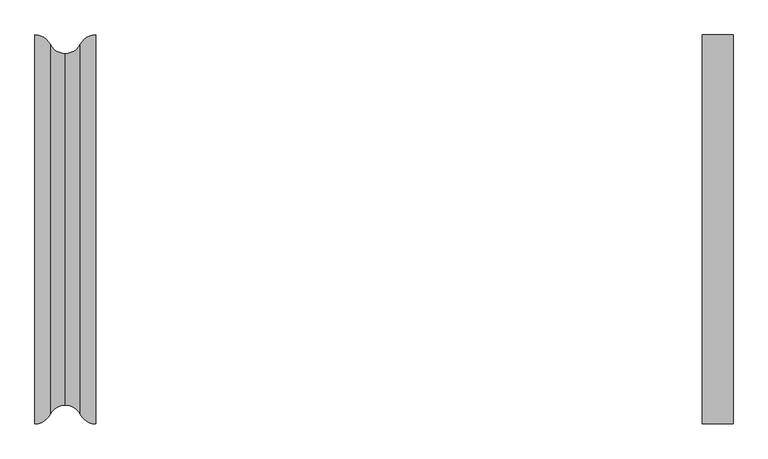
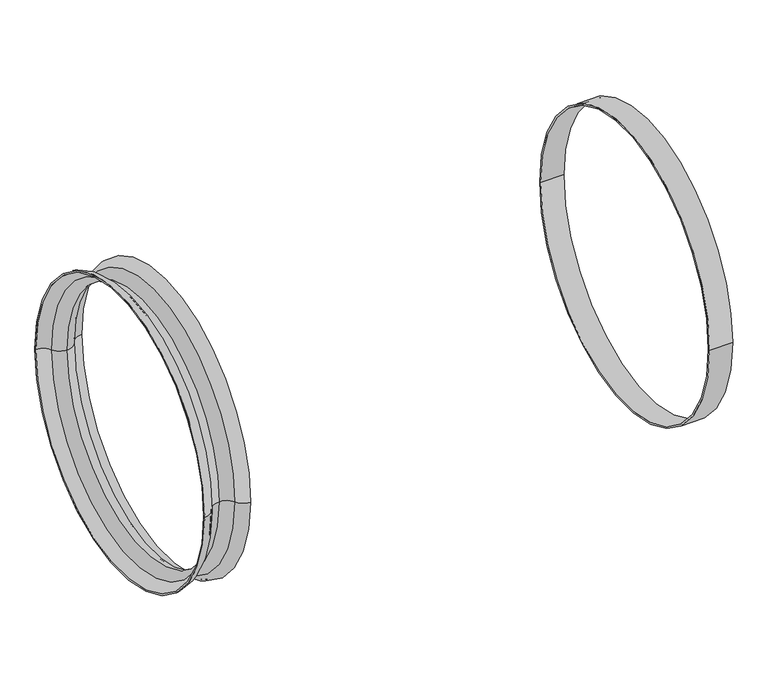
"""IFC4 building model written with IfcOpenShell, lengths in millimetres: pipe fitting geometry, Z_PIF_UN_Q-Bic_Plus_Shaft_Pipe_Wavin_(nested) : PP, RAL8012, ø600mm."""

from ifc_helpers import new_model, si_unit, point, frame, origin, place, context, project, spatial, polyline, circle_curve, ellipse_curve, trimmed, source, transform, mapped, element, save
from ifc_brep_helpers import plane_surface, cylinder_surface, revolved_surface, advanced_brep


def pipe_fitting_fba1ddc1(model_context):
    return source(origin(), model_context, "Body", "AdvancedBrep", [
        advanced_brep(
        [(0.0, -336.4, 0.0), (0.0, 336.4, 0.0), (26.25, 320.3, 0.0), (26.25, -320.3, 0.0), (0.0, -332.7, 0.0), (0.0, 332.7, 0.0), (26.25, -316.6, 0.0), (26.25, 316.6, 0.0), (52.5, -300.5, 0.0), (52.5, 300.5, 0.0), (78.75, -316.6, 0.0), (78.75, 316.6, 0.0), (105.0, -332.7, 0.0), (105.0, 332.7, 0.0), (105.0, -336.4, 0.0), (105.0, 336.4, 0.0), (78.75, -320.3, 0.0), (78.75, 320.3, 0.0), (52.5, -304.2, 0.0), (52.5, 304.2, 0.0)],
        [
            (0, 1, circle_curve(frame((0.0, 0.0, 0.0), z_axis=(1.0, 0.0, 0.0), x_axis=(0.0, 1.0, 0.0)), 336.4)),
            (1, 2, circle_curve(frame((0.0, 306.9505435, 0.0), z_axis=(0.0, 0.0, -1.0), x_axis=(1.0, 0.0, 0.0)), 29.4494565)),
            (2, 3, circle_curve(frame((26.25, 0.0, 0.0), z_axis=(-1.0, 0.0, 0.0), x_axis=(0.0, 1.0, 0.0)), 320.3)),
            (3, 0, circle_curve(frame((0.0, -306.9505435, 0.0), z_axis=(0.0, 0.0, -1.0), x_axis=(1.0, 0.0, 0.0)), 29.4494565)),
            (1, 0, circle_curve(frame((0.0, 0.0, 0.0), z_axis=(1.0, 0.0, 0.0), x_axis=(0.0, 1.0, 0.0)), 336.4)),
            (3, 2, circle_curve(frame((26.25, 0.0, 0.0), z_axis=(-1.0, 0.0, 0.0), x_axis=(0.0, 1.0, 0.0)), 320.3)),
            (4, 5, circle_curve(frame((0.0, 0.0, 0.0), z_axis=(1.0, 0.0, 0.0), x_axis=(0.0, 1.0, 0.0)), 332.7)),
            (5, 1),
            (0, 4),
            (5, 4, circle_curve(frame((0.0, 0.0, 0.0), z_axis=(1.0, 0.0, 0.0), x_axis=(0.0, 1.0, 0.0)), 332.7)),
            (6, 7, circle_curve(frame((26.25, 0.0, 0.0), z_axis=(1.0, 0.0, 0.0), x_axis=(0.0, 1.0, 0.0)), 316.6)),
            (7, 5, circle_curve(frame((0.0, 303.2505435, 0.0), z_axis=(0.0, 0.0, 1.0), x_axis=(1.0, 0.0, 0.0)), 29.4494565)),
            (4, 6, circle_curve(frame((0.0, -303.2505435, 0.0), z_axis=(0.0, 0.0, 1.0), x_axis=(1.0, 0.0, 0.0)), 29.4494565)),
            (7, 6, circle_curve(frame((26.25, 0.0, 0.0), z_axis=(1.0, 0.0, 0.0), x_axis=(0.0, 1.0, 0.0)), 316.6)),
            (8, 9, circle_curve(frame((52.5, 0.0, 0.0), z_axis=(1.0, 0.0, 0.0), x_axis=(0.0, 1.0, 0.0)), 300.5)),
            (9, 7, circle_curve(frame((52.5, 329.9494565, 0.0), z_axis=(0.0, 0.0, -1.0), x_axis=(1.0, 0.0, 0.0)), 29.4494565)),
            (6, 8, circle_curve(frame((52.5, -329.9494565, 0.0), z_axis=(0.0, 0.0, -1.0), x_axis=(1.0, 0.0, 0.0)), 29.4494565)),
            (9, 8, circle_curve(frame((52.5, 0.0, 0.0), z_axis=(1.0, 0.0, 0.0), x_axis=(0.0, 1.0, 0.0)), 300.5)),
            (10, 11, circle_curve(frame((78.75, 0.0, 0.0), z_axis=(1.0, 0.0, 0.0), x_axis=(0.0, 1.0, 0.0)), 316.6)),
            (11, 9, circle_curve(frame((52.5, 329.9494565, 0.0), z_axis=(0.0, 0.0, -1.0), x_axis=(1.0, 0.0, 0.0)), 29.4494565)),
            (8, 10, circle_curve(frame((52.5, -329.9494565, 0.0), z_axis=(0.0, 0.0, -1.0), x_axis=(1.0, 0.0, 0.0)), 29.4494565)),
            (11, 10, circle_curve(frame((78.75, 0.0, 0.0), z_axis=(1.0, 0.0, 0.0), x_axis=(0.0, 1.0, 0.0)), 316.6)),
            (12, 13, circle_curve(frame((105.0, 0.0, 0.0), z_axis=(1.0, 0.0, 0.0), x_axis=(0.0, 1.0, 0.0)), 332.7)),
            (13, 11, circle_curve(frame((105.0, 303.2505435, 0.0), z_axis=(0.0, 0.0, 1.0), x_axis=(1.0, 0.0, 0.0)), 29.4494565)),
            (10, 12, circle_curve(frame((105.0, -303.2505435, 0.0), z_axis=(0.0, 0.0, 1.0), x_axis=(1.0, 0.0, 0.0)), 29.4494565)),
            (13, 12, circle_curve(frame((105.0, 0.0, 0.0), z_axis=(1.0, 0.0, 0.0), x_axis=(0.0, 1.0, 0.0)), 332.7)),
            (14, 15, circle_curve(frame((105.0, 0.0, 0.0), z_axis=(1.0, 0.0, 0.0), x_axis=(0.0, 1.0, 0.0)), 336.4)),
            (15, 13),
            (12, 14),
            (15, 14, circle_curve(frame((105.0, 0.0, 0.0), z_axis=(1.0, 0.0, 0.0), x_axis=(0.0, 1.0, 0.0)), 336.4)),
            (16, 17, circle_curve(frame((78.75, 0.0, 0.0), z_axis=(1.0, 0.0, 0.0), x_axis=(0.0, 1.0, 0.0)), 320.3)),
            (17, 15, circle_curve(frame((105.0, 306.9505435, 0.0), z_axis=(0.0, 0.0, -1.0), x_axis=(1.0, 0.0, 0.0)), 29.4494565)),
            (14, 16, circle_curve(frame((105.0, -306.9505435, 0.0), z_axis=(0.0, 0.0, -1.0), x_axis=(1.0, 0.0, 0.0)), 29.4494565)),
            (17, 16, circle_curve(frame((78.75, 0.0, 0.0), z_axis=(1.0, 0.0, 0.0), x_axis=(0.0, 1.0, 0.0)), 320.3)),
            (18, 19, circle_curve(frame((52.5, 0.0, 0.0), z_axis=(1.0, 0.0, 0.0), x_axis=(0.0, 1.0, 0.0)), 304.2)),
            (19, 17, circle_curve(frame((52.5, 333.6494565, 0.0), z_axis=(0.0, 0.0, 1.0), x_axis=(1.0, 0.0, 0.0)), 29.4494565)),
            (16, 18, circle_curve(frame((52.5, -333.6494565, 0.0), z_axis=(0.0, 0.0, 1.0), x_axis=(1.0, 0.0, 0.0)), 29.4494565)),
            (19, 18, circle_curve(frame((52.5, 0.0, 0.0), z_axis=(1.0, 0.0, 0.0), x_axis=(0.0, 1.0, 0.0)), 304.2)),
            (2, 19, circle_curve(frame((52.5, 333.6494565, 0.0), z_axis=(0.0, 0.0, 1.0), x_axis=(1.0, 0.0, 0.0)), 29.4494565)),
            (18, 3, circle_curve(frame((52.5, -333.6494565, 0.0), z_axis=(0.0, 0.0, 1.0), x_axis=(1.0, 0.0, 0.0)), 29.4494565)),
        ],
        [
            revolved_surface(trimmed(ellipse_curve(frame((0.0, 306.9505435, 0.0), z_axis=(0.0, 0.0, 1.0), x_axis=(1.0, 0.0, 0.0)), 29.4494565, 29.4494565), [point((26.25, 320.3, 0.0))], [point((0.0, 336.4, 0.0))], True, "CARTESIAN"), (-50.0, 0.0, 0.0), (-1.0, 0.0, 0.0)),
            plane_surface(frame((0.0, 0.0, 0.0), z_axis=(-1.0, 0.0, 0.0), x_axis=(0.0, 1.0, 0.0))),
            revolved_surface(trimmed(ellipse_curve(frame((0.0, 303.2505435, 0.0), z_axis=(0.0, 0.0, -1.0), x_axis=(1.0, 0.0, 0.0)), 29.4494565, 29.4494565), [point((0.0, 332.7, 0.0))], [point((26.25, 316.6, 0.0))], True, "CARTESIAN"), (-50.0, 0.0, 0.0), (-1.0, 0.0, 0.0)),
            revolved_surface(trimmed(ellipse_curve(frame((52.5, 329.9494565, 0.0), z_axis=(0.0, 0.0, 1.0), x_axis=(1.0, 0.0, 0.0)), 29.4494565, 29.4494565), [point((26.25, 316.6, 0.0))], [point((52.5, 300.5, 0.0))], True, "CARTESIAN"), (-50.0, 0.0, 0.0), (-1.0, 0.0, 0.0)),
            revolved_surface(trimmed(ellipse_curve(frame((52.5, 329.9494565, 0.0), z_axis=(0.0, 0.0, 1.0), x_axis=(1.0, 0.0, 0.0)), 29.4494565, 29.4494565), [point((52.5, 300.5, 0.0))], [point((78.75, 316.6, 0.0))], True, "CARTESIAN"), (-50.0, 0.0, 0.0), (-1.0, 0.0, 0.0)),
            revolved_surface(trimmed(ellipse_curve(frame((105.0, 303.2505435, 0.0), z_axis=(0.0, 0.0, -1.0), x_axis=(1.0, 0.0, 0.0)), 29.4494565, 29.4494565), [point((78.75, 316.6, 0.0))], [point((105.0, 332.7, 0.0))], True, "CARTESIAN"), (-50.0, 0.0, 0.0), (-1.0, 0.0, 0.0)),
            plane_surface(frame((105.0, 0.0, 0.0), z_axis=(1.0, 0.0, 0.0), x_axis=(0.0, 1.0, 0.0))),
            revolved_surface(trimmed(ellipse_curve(frame((105.0, 306.9505435, 0.0), z_axis=(0.0, 0.0, 1.0), x_axis=(1.0, 0.0, 0.0)), 29.4494565, 29.4494565), [point((105.0, 336.4, 0.0))], [point((78.75, 320.3, 0.0))], True, "CARTESIAN"), (-50.0, 0.0, 0.0), (-1.0, 0.0, 0.0)),
            revolved_surface(trimmed(ellipse_curve(frame((52.5, 333.6494565, 0.0), z_axis=(0.0, 0.0, -1.0), x_axis=(1.0, 0.0, 0.0)), 29.4494565, 29.4494565), [point((78.75, 320.3, 0.0))], [point((52.5, 304.2, 0.0))], True, "CARTESIAN"), (-50.0, 0.0, 0.0), (-1.0, 0.0, 0.0)),
            revolved_surface(trimmed(ellipse_curve(frame((52.5, 333.6494565, 0.0), z_axis=(0.0, 0.0, -1.0), x_axis=(1.0, 0.0, 0.0)), 29.4494565, 29.4494565), [point((52.5, 304.2, 0.0))], [point((26.25, 320.3, 0.0))], True, "CARTESIAN"), (-50.0, 0.0, 0.0), (-1.0, 0.0, 0.0)),
        ],
        [
            (0, [[1, 2, 3, 4]]),
            (0, [[5, -4, 6, -2]]),
            (1, [[7, 8, -1, 9]]),
            (1, [[10, -9, -5, -8]]),
            (2, [[11, 12, -7, 13]]),
            (2, [[14, -13, -10, -12]]),
            (3, [[15, 16, -11, 17]]),
            (3, [[18, -17, -14, -16]]),
            (4, [[19, 20, -15, 21]]),
            (4, [[22, -21, -18, -20]]),
            (5, [[23, 24, -19, 25]]),
            (5, [[26, -25, -22, -24]]),
            (6, [[27, 28, -23, 29]]),
            (6, [[30, -29, -26, -28]]),
            (7, [[31, 32, -27, 33]]),
            (7, [[34, -33, -30, -32]]),
            (8, [[35, 36, -31, 37]]),
            (8, [[38, -37, -34, -36]]),
            (9, [[-3, 39, -35, 40]]),
            (9, [[-6, -40, -38, -39]]),
        ],
    ),
        advanced_brep(
        [(1155.0, -336.4, 0.0), (1155.0, 336.4, 0.0), (1208.0, 336.4, 0.0), (1208.0, -336.4, 0.0), (1155.0, -332.7, 0.0), (1155.0, 332.7, 0.0), (1208.0, -332.7, 0.0), (1208.0, 332.7, 0.0)],
        [
            (0, 1, circle_curve(frame((1155.0, 0.0, 0.0), z_axis=(1.0, 0.0, 0.0), x_axis=(0.0, 1.0, 0.0)), 336.4)),
            (1, 2),
            (2, 3, circle_curve(frame((1208.0, 0.0, 0.0), z_axis=(-1.0, 0.0, 0.0), x_axis=(0.0, 1.0, 0.0)), 336.4)),
            (3, 0),
            (1, 0, circle_curve(frame((1155.0, 0.0, 0.0), z_axis=(1.0, 0.0, 0.0), x_axis=(0.0, 1.0, 0.0)), 336.4)),
            (3, 2, circle_curve(frame((1208.0, 0.0, 0.0), z_axis=(-1.0, 0.0, 0.0), x_axis=(0.0, 1.0, 0.0)), 336.4)),
            (4, 5, circle_curve(frame((1155.0, 0.0, 0.0), z_axis=(1.0, 0.0, 0.0), x_axis=(0.0, 1.0, 0.0)), 332.7)),
            (5, 1),
            (0, 4),
            (5, 4, circle_curve(frame((1155.0, 0.0, 0.0), z_axis=(1.0, 0.0, 0.0), x_axis=(0.0, 1.0, 0.0)), 332.7)),
            (6, 7, circle_curve(frame((1208.0, 0.0, 0.0), z_axis=(1.0, 0.0, 0.0), x_axis=(0.0, 1.0, 0.0)), 332.7)),
            (7, 5),
            (4, 6),
            (7, 6, circle_curve(frame((1208.0, 0.0, 0.0), z_axis=(1.0, 0.0, 0.0), x_axis=(0.0, 1.0, 0.0)), 332.7)),
            (2, 7),
            (6, 3),
        ],
        [
            cylinder_surface(frame((1155.0, 0.0, 0.0), z_axis=(-1.0, 0.0, 0.0), x_axis=(0.0, 1.0, 0.0)), 336.4),
            plane_surface(frame((1155.0, 0.0, 0.0), z_axis=(-1.0, 0.0, 0.0), x_axis=(0.0, 1.0, 0.0))),
            revolved_surface(polyline([(1155.0, 332.7, 0.0), (1208.0, 332.7, 0.0)]), (1155.0, 0.0, 0.0), (-1.0, 0.0, 0.0)),
            plane_surface(frame((1208.0, 0.0, 0.0), z_axis=(1.0, 0.0, 0.0), x_axis=(0.0, 1.0, 0.0))),
        ],
        [
            (0, [[1, 2, 3, 4]]),
            (0, [[5, -4, 6, -2]]),
            (1, [[7, 8, -1, 9]]),
            (1, [[10, -9, -5, -8]]),
            (2, [[11, 12, -7, 13]]),
            (2, [[14, -13, -10, -12]]),
            (3, [[-3, 15, -11, 16]]),
            (3, [[-6, -16, -14, -15]]),
        ],
    ),
    ])


if __name__ == "__main__":
    model = new_model("IFC4")
    model_context = context("Model", 3, world=origin())
    ifc_project = project(units=[si_unit("LENGTHUNIT", "METRE", prefix="MILLI")], contexts=[model_context])
    site = spatial("IfcSite", under=ifc_project)
    building = spatial("IfcBuilding", under=site)
    placement = place(None, origin())
    pipe_fitting_shape = pipe_fitting_fba1ddc1(model_context)
    element("IfcPipeFitting", 1, ObjectType="Z_PIF_UN_Q-Bic_Plus_Shaft_Pipe_Wavin_(nested) : PP, RAL8012, ø600mm", at=placement, inside=building, context=model_context, shape_type="MappedRepresentation", body=[
        mapped(pipe_fitting_shape, transform((0.0, 0.0, 0.0), x_axis=(1.0, 0.0, 0.0), y_axis=(0.0, 1.0, 0.0), z_axis=(0.0, 0.0, 1.0))),
    ])
    save(model, "model.ifc")
